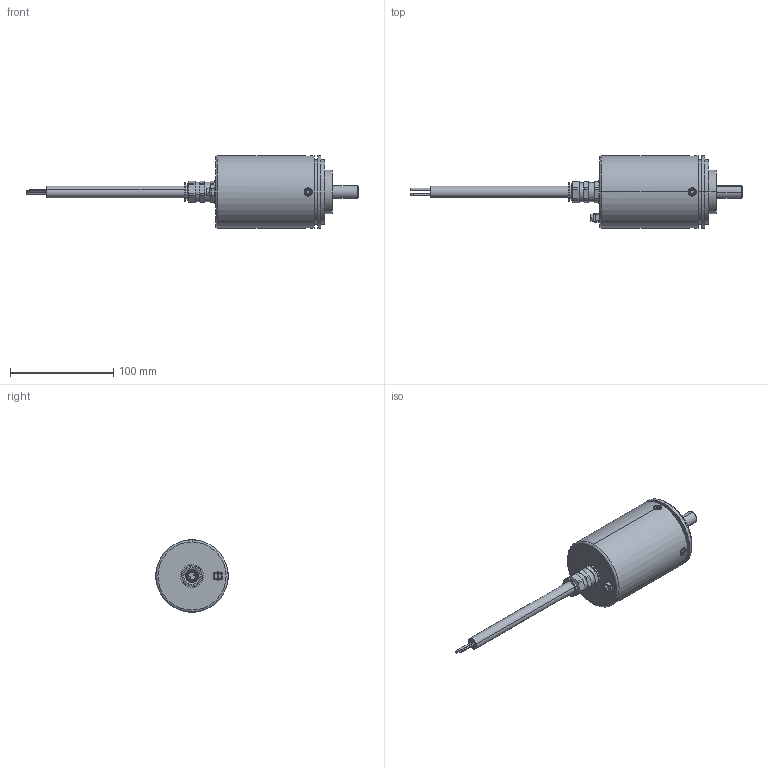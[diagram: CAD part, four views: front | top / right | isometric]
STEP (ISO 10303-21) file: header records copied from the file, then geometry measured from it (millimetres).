
FILE_DESCRIPTION (( 'STEP AP203' ), '1' );
FILE_NAME ('8.7000.11X1.XXXX.STEP', '2013-11-20T07:58:24', ( 'LauferA' ), ( 'Microsoft' ), 'SwSTEP 2.0', 'SolidWorks 2013', '' );
FILE_SCHEMA (( 'CONFIG_CONTROL_DESIGN' ));
Length unit declared in the file: millimetre
Products named in the file (1): 8.7000.11X1.XXXX
Bounding box: 321.3 x 70 x 70 mm (x, y, z)
Volume: 278749.4 mm3; surface area: 97409.8 mm2
Topology: 21 solids, 21 shells, 998 faces, 2405 edges, 1489 vertices
Faces by surface type: cylinder 387, plane 345, cone 167, torus 79, sphere 20
Entity records: 30010 total; most frequent: CARTESIAN_POINT 6439, DIRECTION 5217, ORIENTED_EDGE 4650, EDGE_CURVE 2325, AXIS2_PLACEMENT_3D 2021, VERTEX_POINT 1459, VECTOR 1175, LINE 1175
